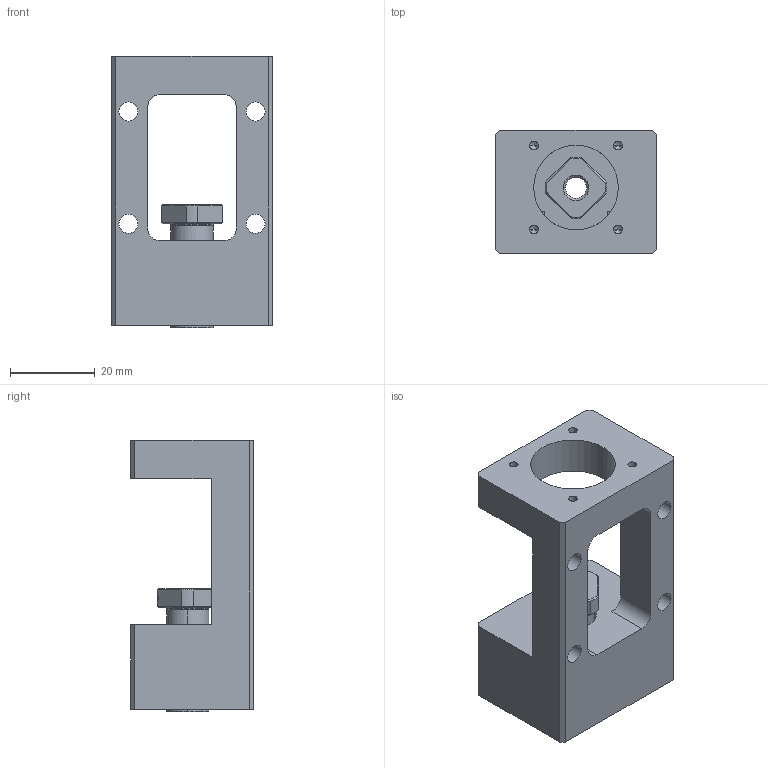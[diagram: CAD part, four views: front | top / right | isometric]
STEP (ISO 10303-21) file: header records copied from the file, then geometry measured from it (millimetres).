
FILE_DESCRIPTION (( 'STEP AP214' ), '1' );
FILE_NAME ('E-SBU-6.25.2.5-P0-C7.STEP', '2026-03-17T11:16:02', ( '决扁浅何厘' ), ( '' ), 'SwSTEP 2.0', 'SolidWorks 2024', '' );
FILE_SCHEMA (( 'AUTOMOTIVE_DESIGN' ));
Length unit declared in the file: millimetre
Products named in the file (7): EK-6 COVER; 6-5 COLLAR; 6-7 COLLAR; deep groove ball bearing (series 60)_ks_KS B 2023 S60 - 606-S-ZZ; RN6; E-SBU-6.25.2.5 HOUSING; E-SBU-6.25.2.5-P0-C7
Assembly tree (7 placements, depth 2):
  E-SBU-6.25.2.5-P0-C7
    E-SBU-6.25.2.5 HOUSING
    deep groove ball bearing (series 60)_ks_KS B 2023 S60 - 606-S-ZZ  x2
    EK-6 COVER
    6-5 COLLAR
    6-7 COLLAR
    RN6
Bounding box: 38 x 29 x 64 mm (x, y, z)
Volume: 33971.6 mm3; surface area: 16655.5 mm2
Topology: 9 solids, 13 shells, 248 faces, 550 edges, 335 vertices
Faces by surface type: cylinder 105, plane 75, torus 40, cone 28
Entity records: 6073 total; most frequent: CARTESIAN_POINT 1175, DIRECTION 1069, ORIENTED_EDGE 892, EDGE_CURVE 446, AXIS2_PLACEMENT_3D 435, VERTEX_POINT 279, EDGE_LOOP 243, CIRCLE 225
